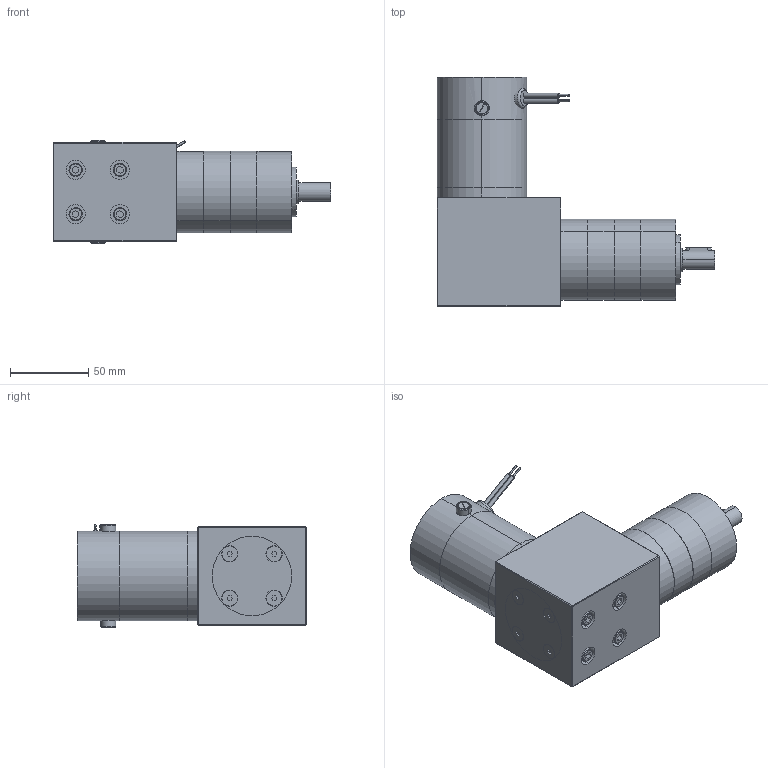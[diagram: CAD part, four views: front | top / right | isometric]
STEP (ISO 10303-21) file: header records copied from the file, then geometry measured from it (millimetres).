
FILE_DESCRIPTION (( 'STEP AP203' ), '1' );
FILE_NAME ('d22301gra3.step', '2018-12-07T19:21:42', ( '' ), ( '' ), 'SwSTEP 2.0', 'SolidWorks 2017', '' );
FILE_SCHEMA (( 'CONFIG_CONTROL_DESIGN' ));
Length unit declared in the file: inch
Products named in the file (1): d22301gra3
Bounding box: 177.37 x 146.35 x 66.04 mm (x, y, z)
Volume: 696064.8 mm3; surface area: 114202.3 mm2
Topology: 24 solids, 24 shells, 568 faces, 1229 edges, 756 vertices
Faces by surface type: plane 244, cylinder 220, cone 93, torus 7, sphere 4
Entity records: 15692 total; most frequent: DIRECTION 2867, CARTESIAN_POINT 2864, ORIENTED_EDGE 2410, EDGE_CURVE 1205, AXIS2_PLACEMENT_3D 1109, VERTEX_POINT 756, EDGE_LOOP 681, LINE 649
